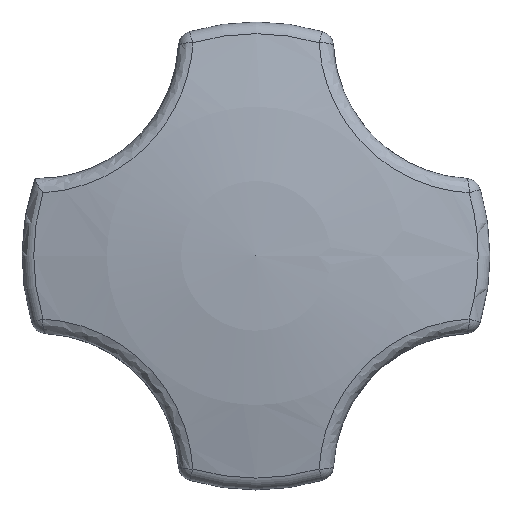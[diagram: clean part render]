
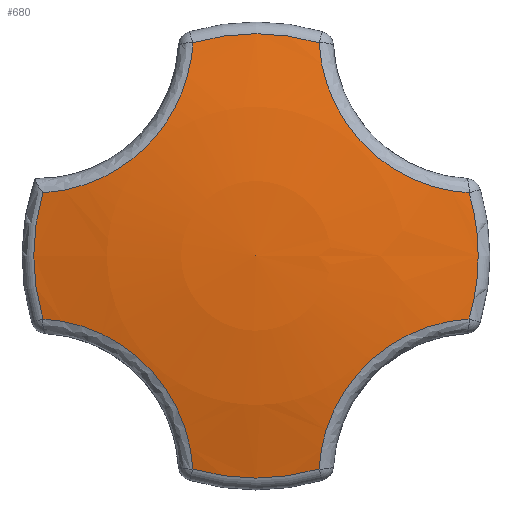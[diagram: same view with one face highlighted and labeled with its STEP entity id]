
A CAD part, top view. The second image highlights one B-rep face of the part: STEP entity #680.
In plain terms, the highlighted spherical face has radius 57.25 mm.
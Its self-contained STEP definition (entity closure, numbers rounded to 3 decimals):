
#76=B_SPLINE_CURVE_WITH_KNOTS('',3,(#1262,#1263,#1264,#1265,#1266,#1267),
 .UNSPECIFIED.,.F.,.F.,(4,1,1,4),(-1.91,-1.488,-1.066,
-0.432),.UNSPECIFIED.);
#78=B_SPLINE_CURVE_WITH_KNOTS('',3,(#1310,#1311,#1312,#1313,#1314,#1315),
 .UNSPECIFIED.,.F.,.F.,(4,1,1,4),(-1.91,-1.543,-1.099,
-0.432),.UNSPECIFIED.);
#81=B_SPLINE_CURVE_WITH_KNOTS('',3,(#1360,#1361,#1362,#1363,#1364,#1365),
 .UNSPECIFIED.,.F.,.F.,(4,1,1,4),(-1.91,-1.277,-0.855,
-0.432),.UNSPECIFIED.);
#83=B_SPLINE_CURVE_WITH_KNOTS('',3,(#1411,#1412,#1413,#1414,#1415,#1416),
 .UNSPECIFIED.,.F.,.F.,(4,1,1,4),(-1.91,-1.277,-0.855,
-0.432),.UNSPECIFIED.);
#142=FACE_OUTER_BOUND('',#195,.T.);
#195=EDGE_LOOP('',(#595,#596,#597,#598,#599,#600,#601,#602));
#217=CIRCLE('',#704,14.249);
#222=CIRCLE('',#711,14.249);
#241=CIRCLE('',#737,14.249);
#268=CIRCLE('',#778,14.249);
#279=VERTEX_POINT('',#1067);
#281=VERTEX_POINT('',#1073);
#284=VERTEX_POINT('',#1080);
#291=VERTEX_POINT('',#1099);
#296=VERTEX_POINT('',#1122);
#301=VERTEX_POINT('',#1138);
#304=VERTEX_POINT('',#1145);
#311=VERTEX_POINT('',#1166);
#340=EDGE_CURVE('',#284,#279,#217,.T.);
#345=EDGE_CURVE('',#281,#291,#222,.T.);
#365=EDGE_CURVE('',#304,#296,#241,.T.);
#399=EDGE_CURVE('',#301,#311,#268,.T.);
#400=EDGE_CURVE('',#311,#304,#76,.T.);
#406=EDGE_CURVE('',#291,#301,#78,.T.);
#411=EDGE_CURVE('',#296,#284,#81,.T.);
#419=EDGE_CURVE('',#279,#281,#83,.T.);
#595=ORIENTED_EDGE('',*,*,#399,.F.);
#596=ORIENTED_EDGE('',*,*,#406,.F.);
#597=ORIENTED_EDGE('',*,*,#345,.F.);
#598=ORIENTED_EDGE('',*,*,#419,.F.);
#599=ORIENTED_EDGE('',*,*,#340,.F.);
#600=ORIENTED_EDGE('',*,*,#411,.F.);
#601=ORIENTED_EDGE('',*,*,#365,.F.);
#602=ORIENTED_EDGE('',*,*,#400,.F.);
#635=SPHERICAL_SURFACE('',#797,57.25);
#680=ADVANCED_FACE('',(#142),#635,.T.);
#704=AXIS2_PLACEMENT_3D('',#1088,#839,#840);
#711=AXIS2_PLACEMENT_3D('',#1100,#853,#854);
#737=AXIS2_PLACEMENT_3D('',#1153,#905,#906);
#778=AXIS2_PLACEMENT_3D('',#1231,#993,#994);
#797=AXIS2_PLACEMENT_3D('',#1433,#1040,#1041);
#839=DIRECTION('center_axis',(0.,0.,-1.));
#840=DIRECTION('ref_axis',(0.,-1.,0.));
#853=DIRECTION('center_axis',(0.,0.,-1.));
#854=DIRECTION('ref_axis',(-1.,0.,0.));
#905=DIRECTION('center_axis',(0.,0.,-1.));
#906=DIRECTION('ref_axis',(1.,0.,0.));
#993=DIRECTION('center_axis',(0.,0.,-1.));
#994=DIRECTION('ref_axis',(0.,1.,0.));
#1040=DIRECTION('center_axis',(0.,0.,1.));
#1041=DIRECTION('ref_axis',(1.,0.,0.));
#1067=CARTESIAN_POINT('',(-4.047,-13.662,-1.802));
#1073=CARTESIAN_POINT('',(-13.662,-4.047,-1.802));
#1080=CARTESIAN_POINT('',(4.047,-13.662,-1.802));
#1088=CARTESIAN_POINT('Origin',(0.,0.,-1.802));
#1099=CARTESIAN_POINT('',(-13.662,4.047,-1.802));
#1100=CARTESIAN_POINT('Origin',(0.,0.,-1.802));
#1122=CARTESIAN_POINT('',(13.662,-4.047,-1.802));
#1138=CARTESIAN_POINT('',(-4.047,13.662,-1.802));
#1145=CARTESIAN_POINT('',(13.662,4.047,-1.802));
#1153=CARTESIAN_POINT('Origin',(0.,0.,-1.802));
#1166=CARTESIAN_POINT('',(4.047,13.662,-1.802));
#1231=CARTESIAN_POINT('Origin',(0.,0.,-1.802));
#1262=CARTESIAN_POINT('Ctrl Pts',(4.047,13.662,-1.802));
#1263=CARTESIAN_POINT('Ctrl Pts',(4.124,12.272,-1.465));
#1264=CARTESIAN_POINT('Ctrl Pts',(4.858,9.486,-0.944));
#1265=CARTESIAN_POINT('Ctrl Pts',(8.086,5.478,-0.749));
#1266=CARTESIAN_POINT('Ctrl Pts',(11.577,4.162,-1.296));
#1267=CARTESIAN_POINT('Ctrl Pts',(13.662,4.047,-1.802));
#1310=CARTESIAN_POINT('Ctrl Pts',(-13.662,4.047,-1.802));
#1311=CARTESIAN_POINT('Ctrl Pts',(-12.454,4.115,-1.509));
#1312=CARTESIAN_POINT('Ctrl Pts',(-9.781,4.742,-0.989));
#1313=CARTESIAN_POINT('Ctrl Pts',(-5.622,7.793,-0.711));
#1314=CARTESIAN_POINT('Ctrl Pts',(-4.168,11.468,-1.27));
#1315=CARTESIAN_POINT('Ctrl Pts',(-4.047,13.662,-1.802));
#1360=CARTESIAN_POINT('Ctrl Pts',(13.662,-4.047,-1.802));
#1361=CARTESIAN_POINT('Ctrl Pts',(11.577,-4.162,-1.296));
#1362=CARTESIAN_POINT('Ctrl Pts',(8.086,-5.478,-0.749));
#1363=CARTESIAN_POINT('Ctrl Pts',(4.858,-9.486,-0.944));
#1364=CARTESIAN_POINT('Ctrl Pts',(4.124,-12.272,-1.465));
#1365=CARTESIAN_POINT('Ctrl Pts',(4.047,-13.662,-1.802));
#1411=CARTESIAN_POINT('Ctrl Pts',(-4.047,-13.662,-1.802));
#1412=CARTESIAN_POINT('Ctrl Pts',(-4.162,-11.577,-1.296));
#1413=CARTESIAN_POINT('Ctrl Pts',(-5.478,-8.086,-0.749));
#1414=CARTESIAN_POINT('Ctrl Pts',(-9.486,-4.858,-0.944));
#1415=CARTESIAN_POINT('Ctrl Pts',(-12.272,-4.124,-1.465));
#1416=CARTESIAN_POINT('Ctrl Pts',(-13.662,-4.047,-1.802));
#1433=CARTESIAN_POINT('Origin',(0.,0.,-57.25));
